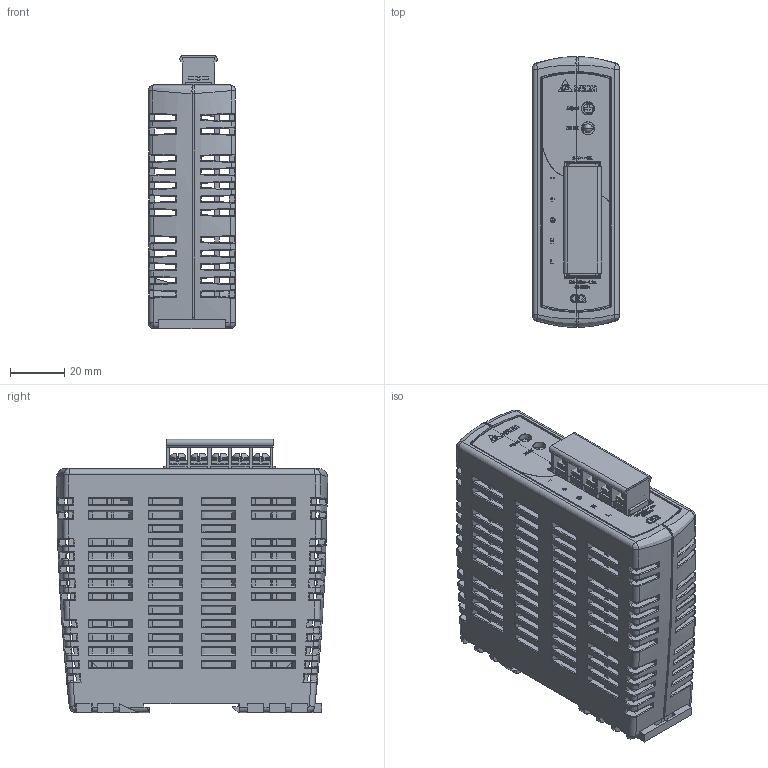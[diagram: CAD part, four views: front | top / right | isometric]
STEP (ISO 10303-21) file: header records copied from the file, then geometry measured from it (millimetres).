
FILE_DESCRIPTION((''),'2;1');
FILE_NAME('DRP-24V48W1AZ_ASM','2013-06-03T',('Chinnadit.T'),(''),'PRO/ENGINEER BY PARAMETRIC TECHNOLOGY CORPORATION, 2010180','PRO/ENGINEER BY PARAMETRIC TECHNOLOGY CORPORATION, 2010180','');
FILE_SCHEMA(('CONFIG_CONTROL_DESIGN','SHAPE_APPEARANCE_LAYERS_GROUPS'));
Products named in the file (17): 331040250102_CHASSIS; 331040240101_COVER; 342102650202; 326253290101; 326811400000; 2958035903_PWB; 3076677546_A_BODY; 3076677546_A_COVER; 3076677546_A_SCREW; 3076677546_ASM; EE_VR; 3123326300_LEJ-4NV0; EE_LED750; ASSY_LED750_ASM; ASSY_PWB_DRP-24V48W1AZ_ASM; 3109010800; DRP-24V48W1AZ_ASM
Assembly tree (21 placements, depth 4):
  DRP-24V48W1AZ_ASM
    331040250102_CHASSIS
    331040240101_COVER
    342102650202
    326253290101
    326811400000
    ASSY_PWB_DRP-24V48W1AZ_ASM
      2958035903_PWB
      3076677546_ASM
        3076677546_A_BODY
        3076677546_A_COVER
        3076677546_A_SCREW  x5
      EE_VR
      ASSY_LED750_ASM
        3123326300_LEJ-4NV0
        EE_LED750
    3109010800  x2
Bounding box: 32 x 99.98 x 100.65 mm (x, y, z)
Volume: 71927.6 mm3; surface area: 94164.2 mm2
Topology: 18 solids, 20 shells, 4053 faces, 11277 edges, 7263 vertices
Faces by surface type: plane 2326, cylinder 754, bspline 410, extrusion 352, cone 123, torus 82, sphere 6
Entity records: 161758 total; most frequent: CARTESIAN_POINT 44196, ORIENTED_EDGE 19998, DIRECTION 14266, PRESENTATION_STYLE_ASSIGNMENT 10100, STYLED_ITEM 10012, CURVE_STYLE 9999, EDGE_CURVE 9999, VECTOR 6618
